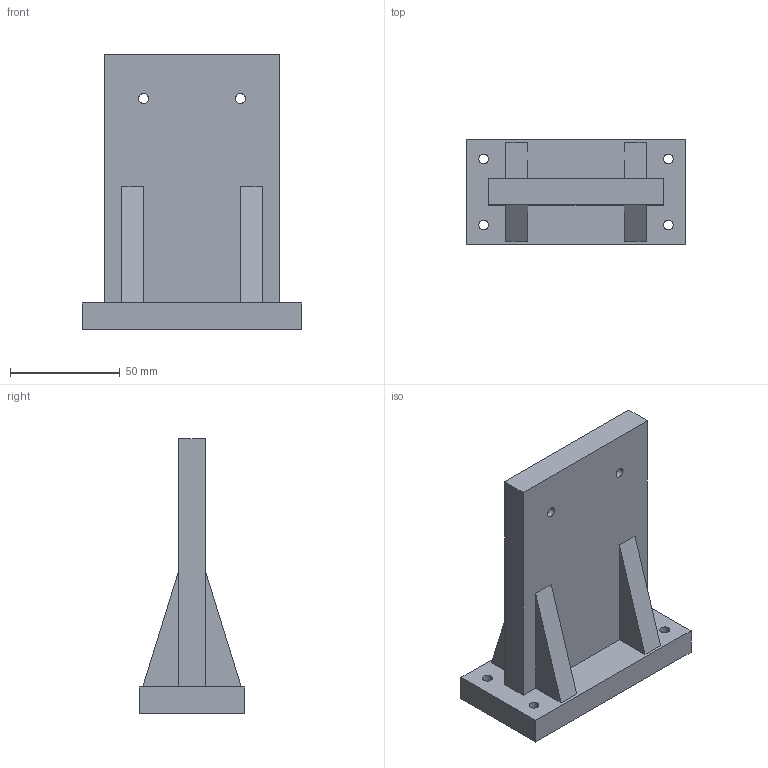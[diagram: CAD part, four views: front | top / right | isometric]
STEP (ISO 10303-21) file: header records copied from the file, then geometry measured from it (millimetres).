
FILE_DESCRIPTION(('Open CASCADE Model'),'2;1');
FILE_NAME('Open CASCADE Shape Model','2026-10-26T17:58:52',('Author'),( 'Open CASCADE'),'Open CASCADE STEP processor 7.9','Open CASCADE 7.9' ,'Unknown');
FILE_SCHEMA(('AUTOMOTIVE_DESIGN { 1 0 10303 214 1 1 1 1 }'));
Length unit declared in the file: millimetre
Products named in the file (1): Open CASCADE STEP translator 7.9 6
Bounding box: 100 x 48 x 125 mm (x, y, z)
Volume: 182224.2 mm3; surface area: 37673 mm2
Topology: 1 solids, 1 shells, 29 faces, 78 edges, 52 vertices
Faces by surface type: plane 23, cylinder 6
Full cylindrical faces by diameter (mm): 4.5 x6
Entity records: 1888 total; most frequent: CARTESIAN_POINT 380, DIRECTION 242, ORIENTED_EDGE 156, PCURVE 156, DEFINITIONAL_REPRESENTATION 156, LINE 146, VECTOR 146, EDGE_CURVE 78
